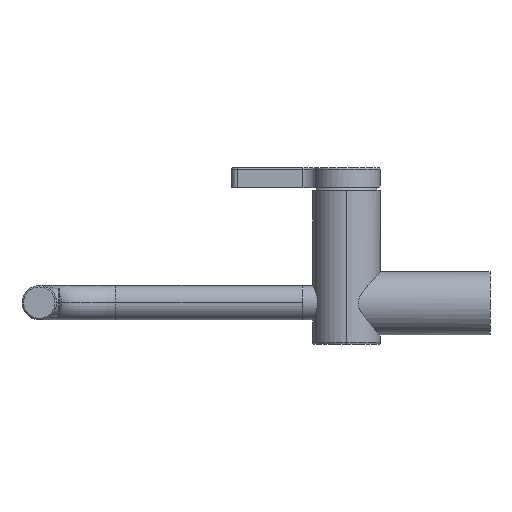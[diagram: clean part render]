
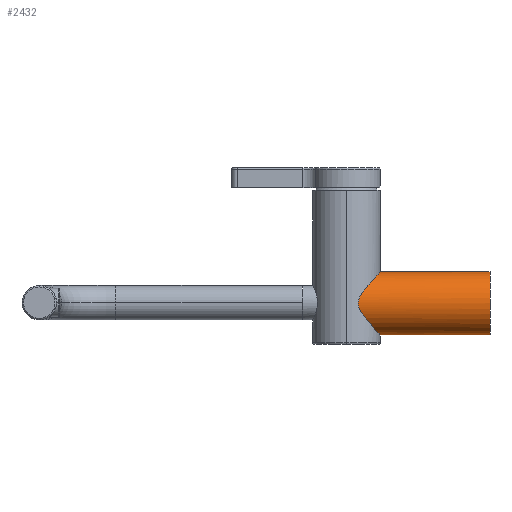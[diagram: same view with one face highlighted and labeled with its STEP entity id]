
A CAD part, left-side view. The second image highlights one B-rep face of the part: STEP entity #2432.
In plain terms, the highlighted cylindrical face has radius 22 mm (diameter 44 mm), a partial arc.
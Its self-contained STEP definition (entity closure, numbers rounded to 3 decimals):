
#82=CARTESIAN_POINT('',(0.,-23.5,
6.5));
#135=CARTESIAN_POINT('',(0.,-23.5,
50.5));
#137=CARTESIAN_POINT('',(0.,-23.5,
50.5));
#138=CARTESIAN_POINT('',(-0.437,-23.5,
50.5));
#139=CARTESIAN_POINT('',(-1.314,-23.476,50.474));
#140=CARTESIAN_POINT('',(-2.638,-23.364,50.355));
#141=CARTESIAN_POINT('',(-3.96,-23.177,50.155));
#142=CARTESIAN_POINT('',(-5.282,-22.912,49.871));
#143=CARTESIAN_POINT('',(-6.607,-22.566,49.5));
#144=CARTESIAN_POINT('',(-7.924,-22.139,49.04));
#145=CARTESIAN_POINT('',(-9.245,-21.621,48.481));
#146=CARTESIAN_POINT('',(-10.561,-21.01,47.818));
#147=CARTESIAN_POINT('',(-11.862,-20.305,47.049));
#148=CARTESIAN_POINT('',(-13.149,-19.497,46.162));
#149=CARTESIAN_POINT('',(-14.409,-18.586,45.152));
#150=CARTESIAN_POINT('',(-15.633,-17.571,44.011));
#151=CARTESIAN_POINT('',(-16.797,-16.461,42.743));
#152=CARTESIAN_POINT('',(-17.884,-15.273,41.354));
#153=CARTESIAN_POINT('',(-18.885,-14.017,39.836));
#154=CARTESIAN_POINT('',(-19.736,-12.78,38.267));
#155=CARTESIAN_POINT('',(-20.355,-11.761,36.888));
#156=CARTESIAN_POINT('',(-20.833,-10.886,35.61));
#157=CARTESIAN_POINT('',(-21.2,-10.149,34.42));
#158=CARTESIAN_POINT('',(-21.475,-9.549,33.318));
#159=CARTESIAN_POINT('',(-21.677,-9.079,32.301));
#160=CARTESIAN_POINT('',(-21.82,-8.727,31.357));
#161=CARTESIAN_POINT('',(-21.916,-8.483,30.483));
#162=CARTESIAN_POINT('',(-21.974,-8.331,29.666));
#163=CARTESIAN_POINT('',(-22.001,-8.258,28.884));
#164=CARTESIAN_POINT('',(-22.001,-8.258,28.119));
#165=CARTESIAN_POINT('',(-21.974,-8.33,27.337));
#166=CARTESIAN_POINT('',(-21.916,-8.482,26.52));
#167=CARTESIAN_POINT('',(-21.821,-8.726,25.646));
#168=CARTESIAN_POINT('',(-21.677,-9.078,24.703));
#169=CARTESIAN_POINT('',(-21.476,-9.547,23.685));
#170=CARTESIAN_POINT('',(-21.2,-10.148,22.583));
#171=CARTESIAN_POINT('',(-20.834,-10.885,21.392));
#172=CARTESIAN_POINT('',(-20.355,-11.759,20.114));
#173=CARTESIAN_POINT('',(-19.737,-12.779,18.735));
#174=CARTESIAN_POINT('',(-18.886,-14.015,17.166));
#175=CARTESIAN_POINT('',(-17.885,-15.273,15.647));
#176=CARTESIAN_POINT('',(-16.797,-16.461,14.257));
#177=CARTESIAN_POINT('',(-15.633,-17.571,12.989));
#178=CARTESIAN_POINT('',(-14.409,-18.586,11.848));
#179=CARTESIAN_POINT('',(-13.149,-19.498,10.838));
#180=CARTESIAN_POINT('',(-11.862,-20.305,9.951));
#181=CARTESIAN_POINT('',(-10.561,-21.01,9.182));
#182=CARTESIAN_POINT('',(-9.245,-21.621,8.519));
#183=CARTESIAN_POINT('',(-7.924,-22.139,7.96));
#184=CARTESIAN_POINT('',(-6.607,-22.566,7.5));
#185=CARTESIAN_POINT('',(-5.282,-22.912,7.129));
#186=CARTESIAN_POINT('',(-3.96,-23.177,6.845));
#187=CARTESIAN_POINT('',(-2.638,-23.364,6.645));
#188=CARTESIAN_POINT('',(-1.314,-23.476,6.526));
#189=CARTESIAN_POINT('',(-0.437,-23.5,
6.5));
#190=CARTESIAN_POINT('',(0.,-23.5,
6.5));
#939=DIRECTION('',(0.,-1.,0.));
#940=VECTOR('',#939,76.5);
#941=CARTESIAN_POINT('',(0.,-23.5,
50.5));
#942=LINE('',#941,#940);
#943=DIRECTION('',(0.,-1.,0.));
#944=VECTOR('',#943,76.5);
#945=CARTESIAN_POINT('',(0.,-23.5,
6.5));
#946=LINE('',#945,#944);
#952=CARTESIAN_POINT('',(0.,-100.,28.5));
#953=DIRECTION('',(0.,1.,0.));
#954=DIRECTION('',(0.,0.,-1.));
#955=AXIS2_PLACEMENT_3D('',#952,#953,#954);
#973=CARTESIAN_POINT('',(0.,-100.,50.5));
#974=CARTESIAN_POINT('',(0.,-100.,6.5));
#975=VERTEX_POINT('',#973);
#976=VERTEX_POINT('',#974);
#977=VERTEX_POINT('',#82);
#978=VERTEX_POINT('',#135);
#2420=CARTESIAN_POINT('',(0.,0.,28.5));
#2421=DIRECTION('',(0.,1.,0.));
#2422=DIRECTION('',(0.,0.,1.));
#2423=AXIS2_PLACEMENT_3D('',#2420,#2421,#2422);
#2424=CYLINDRICAL_SURFACE('',#2423,22.);
#2425=ORIENTED_EDGE('',*,*,#1190,.F.);
#2426=ORIENTED_EDGE('',*,*,#2408,.T.);
#2428=ORIENTED_EDGE('',*,*,#2427,.F.);
#2429=ORIENTED_EDGE('',*,*,#2404,.F.);
#2430=EDGE_LOOP('',(#2425,#2426,#2428,#2429));
#2431=FACE_OUTER_BOUND('',#2430,.F.);
#191=B_SPLINE_CURVE_WITH_KNOTS('',3,(#137,#138,#139,#140,#141,#142,#143,#144,
#145,#146,#147,#148,#149,#150,#151,#152,#153,#154,#155,#156,#157,#158,#159,#160,
#161,#162,#163,#164,#165,#166,#167,#168,#169,#170,#171,#172,#173,#174,#175,#176,
#177,#178,#179,#180,#181,#182,#183,#184,#185,#186,#187,#188,#189,#190),
.UNSPECIFIED.,.F.,.F.,(4,1,1,1,1,1,1,1,1,1,1,1,1,1,1,1,1,1,1,1,1,1,1,1,1,1,1,1,
1,1,1,1,1,1,1,1,1,1,1,1,1,1,1,1,1,1,1,1,1,1,1,4),(0.,0.02,
0.039,0.059,0.078,0.098,
0.118,0.137,0.157,0.176,
0.196,0.216,0.235,0.255,
0.275,0.294,0.314,0.333,
0.353,0.373,0.392,0.412,
0.431,0.451,0.471,0.49,
0.51,0.529,0.549,0.569,
0.588,0.608,0.627,0.647,
0.667,0.686,0.706,0.725,
0.745,0.765,0.784,0.804,
0.824,0.843,0.863,0.882,
0.902,0.922,0.941,0.961,
0.98,1.),.UNSPECIFIED.);
#956=CIRCLE('',#955,22.);
#1190=EDGE_CURVE('',#978,#977,#191,.T.);
#2404=EDGE_CURVE('',#977,#976,#946,.T.);
#2408=EDGE_CURVE('',#978,#975,#942,.T.);
#2427=EDGE_CURVE('',#976,#975,#956,.T.);
#2432=ADVANCED_FACE('',(#2431),#2424,.T.);
